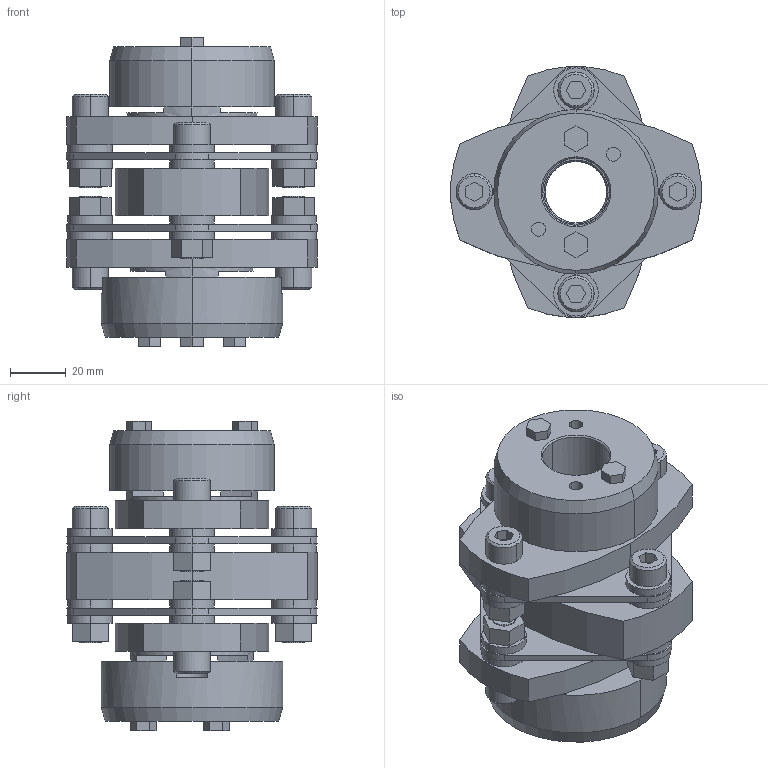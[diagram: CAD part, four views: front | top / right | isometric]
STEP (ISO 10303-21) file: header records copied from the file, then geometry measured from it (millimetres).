
FILE_DESCRIPTION((''),'2;1');
FILE_NAME('LCD-90T7-22×24.stp','2015-11-01T20:03:16',(''),(''),'AutoCAD STEP 2000i','AutoCAD 2000i',', , ');
FILE_SCHEMA(('CONFIG_CONTROL_DESIGN'));
Length unit declared in the file: millimetre
Products named in the file (8): LCD-90T7-20×25; 忣兜1; LC90T7-T020; LC90T7-T025-1; LC90T7-T025; LC90T7-T019-1; LC90T7-T019; LCD90-ITA
Assembly tree (7 placements, depth 2):
  LCD-90T7-20×25
    忣兜1
    LC90T7-T020
    LC90T7-T025-1
    LC90T7-T025
    LC90T7-T019-1
    LC90T7-T019
    LCD90-ITA
Bounding box: 90 x 89.94 x 111 mm (x, y, z)
Volume: 283296.9 mm3; surface area: 75063.8 mm2
Topology: 1 solids, 1 shells, 317 faces, 774 edges, 508 vertices
Faces by surface type: plane 171, cylinder 122, cone 24
Entity records: 9609 total; most frequent: DIRECTION 1712, CARTESIAN_POINT 1607, ORIENTED_EDGE 1548, EDGE_CURVE 774, AXIS2_PLACEMENT_3D 613, VERTEX_POINT 508, VECTOR 486, LINE 486
